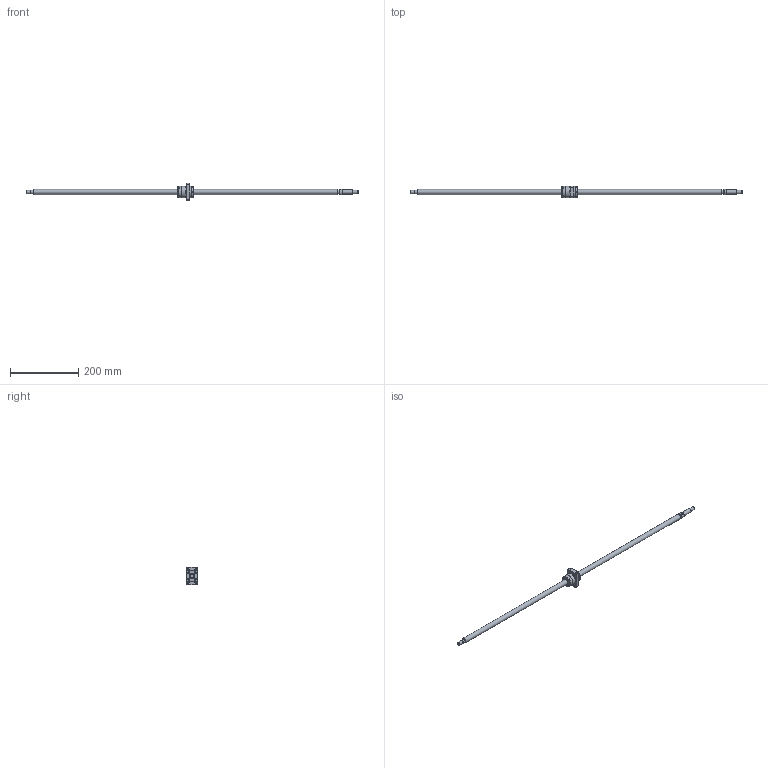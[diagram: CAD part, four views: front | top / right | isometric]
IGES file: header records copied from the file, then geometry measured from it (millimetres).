
Start section: Data from Parasolid IGES Translator 26.0.171, Copyright(c) 2006 Siemens PLM Software. All Rights Reserved.
Global section: file name: BNK1510-5.6G0+971LC5Y(466.50).igs; native system: By Siemens PLM Incorporated; preprocessor: XPlus GENERIC/IGES 26.0.171; author: Noname; organization: Noname; date: 20240709.092445; units: millimetre
Bounding box: 971 x 34 x 50 mm (x, y, z)
Surface area: 57045.9 mm2 (no closed solid volume)
Topology: 0 solids, 0 shells, 140 faces, 657 edges, 602 vertices
Faces by surface type: extrusion 76, revolution 64
